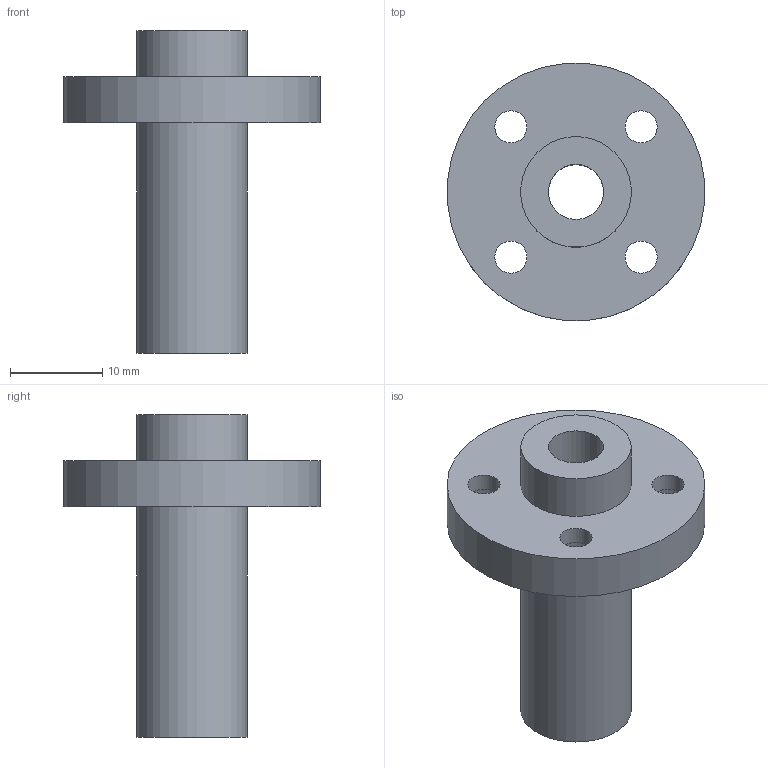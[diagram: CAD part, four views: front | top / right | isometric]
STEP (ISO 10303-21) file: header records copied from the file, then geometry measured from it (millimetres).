
FILE_DESCRIPTION(/* description */ (''),/* implementation_level */ '2;1');
FILE_NAME(/* name */ 'LMFP6LUU',/* time_stamp */ '2019-07-03T13:01:29+02:00',/* author */ ('VĂ©gh MĂˇtĂ©'),/* organization */ ('Bearing Kft'),/* preprocessor_version */ 'ST-DEVELOPER v16.7',/* originating_system */ 'DEX',/* authorisation */ $);
FILE_SCHEMA (('AUTOMOTIVE_DESIGN {1 0 10303 214 3 1 1}'));
Length unit declared in the file: millimetre
Products named in the file (1): LMFP6LUU
Bounding box: 27.89 x 27.89 x 35 mm (x, y, z)
Volume: 5058 mm3; surface area: 3653.7 mm2
Topology: 1 solids, 1 shells, 333 faces, 835 edges, 558 vertices
Faces by surface type: plane 253, bspline 66, cylinder 14
Full cylindrical faces by diameter (mm): 3.5 x4, 6 x5, 12 x2, 28 x1
Entity records: 12221 total; most frequent: CARTESIAN_POINT 4675, ORIENTED_EDGE 1634, DIRECTION 1249, EDGE_CURVE 817, LINE 657, VECTOR 657, VERTEX_POINT 554, EDGE_LOOP 411
